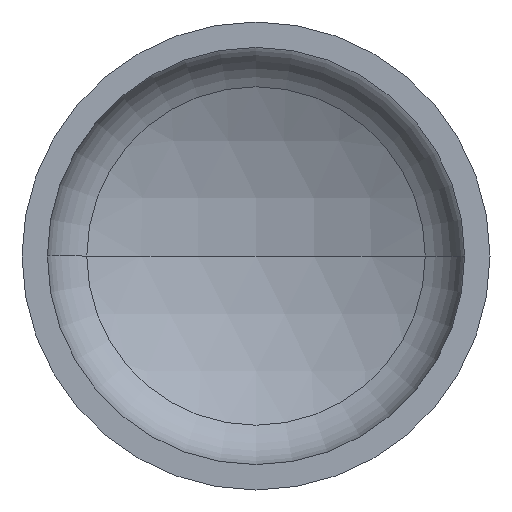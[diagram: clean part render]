
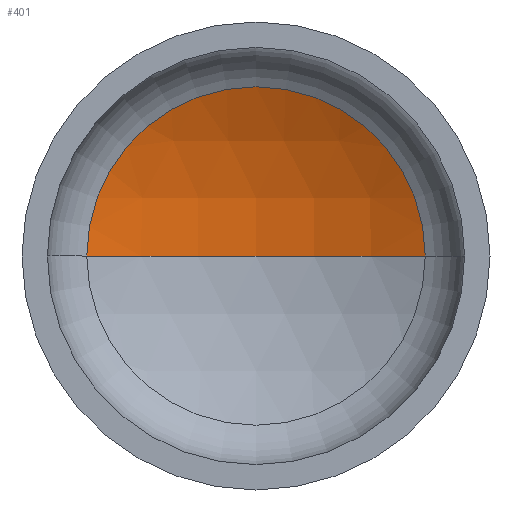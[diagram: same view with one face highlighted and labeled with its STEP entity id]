
A CAD part, front view. The second image highlights one B-rep face of the part: STEP entity #401.
In plain terms, the highlighted spherical face has radius 1120 mm.
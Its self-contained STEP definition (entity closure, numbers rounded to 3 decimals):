
#3 = VERTEX_POINT ( 'NONE', #194 ) ;
#7 = CARTESIAN_POINT ( 'NONE',  ( 0., 432.693, 0. ) ) ;
#10 = ORIENTED_EDGE ( 'NONE', *, *, #344, .F. ) ;
#19 = AXIS2_PLACEMENT_3D ( 'NONE', #188, #333, #209 ) ;
#25 = AXIS2_PLACEMENT_3D ( 'NONE', #269, #67, #292 ) ;
#39 = VERTEX_POINT ( 'NONE', #7 ) ;
#46 = AXIS2_PLACEMENT_3D ( 'NONE', #329, #207, #361 ) ;
#67 = DIRECTION ( 'NONE',  ( 0., -1., 0. ) ) ;
#79 = EDGE_LOOP ( 'NONE', ( #10, #186, #86 ) ) ;
#86 = ORIENTED_EDGE ( 'NONE', *, *, #353, .T. ) ;
#105 = VERTEX_POINT ( 'NONE', #162 ) ;
#162 = CARTESIAN_POINT ( 'NONE',  ( 506.166, 311.791, 0. ) ) ;
#186 = ORIENTED_EDGE ( 'NONE', *, *, #357, .T. ) ;
#188 = CARTESIAN_POINT ( 'NONE',  ( 0., -687.307, 0. ) ) ;
#194 = CARTESIAN_POINT ( 'NONE',  ( -506.166, 311.791, 0. ) ) ;
#207 = DIRECTION ( 'NONE',  ( 0., 0., 1. ) ) ;
#209 = DIRECTION ( 'NONE',  ( -1., 0., 0. ) ) ;
#224 = SPHERICAL_SURFACE ( 'NONE', #319, 1120. ) ;
#244 = CIRCLE ( 'NONE', #46, 1120. ) ;
#269 = CARTESIAN_POINT ( 'NONE',  ( 0., 311.791, 0. ) ) ;
#292 = DIRECTION ( 'NONE',  ( 1., 0., 0. ) ) ;
#295 = CARTESIAN_POINT ( 'NONE',  ( 0., -687.307, 0. ) ) ;
#296 = CIRCLE ( 'NONE', #25, 506.166 ) ;
#319 = AXIS2_PLACEMENT_3D ( 'NONE', #295, #385, #367 ) ;
#329 = CARTESIAN_POINT ( 'NONE',  ( 0., -687.307, 0. ) ) ;
#333 = DIRECTION ( 'NONE',  ( 0., 0., -1. ) ) ;
#344 = EDGE_CURVE ( 'NONE', #39, #3, #244, .T. ) ;
#346 = FACE_OUTER_BOUND ( 'NONE', #79, .T. ) ;
#353 = EDGE_CURVE ( 'NONE', #105, #3, #296, .T. ) ;
#356 = CIRCLE ( 'NONE', #19, 1120. ) ;
#357 = EDGE_CURVE ( 'NONE', #39, #105, #356, .T. ) ;
#361 = DIRECTION ( 'NONE',  ( 1., 0., 0. ) ) ;
#367 = DIRECTION ( 'NONE',  ( -1., 0., 0. ) ) ;
#385 = DIRECTION ( 'NONE',  ( 0., 0., -1. ) ) ;
#401 = ADVANCED_FACE ( 'NONE', ( #346 ), #224, .F. ) ;
